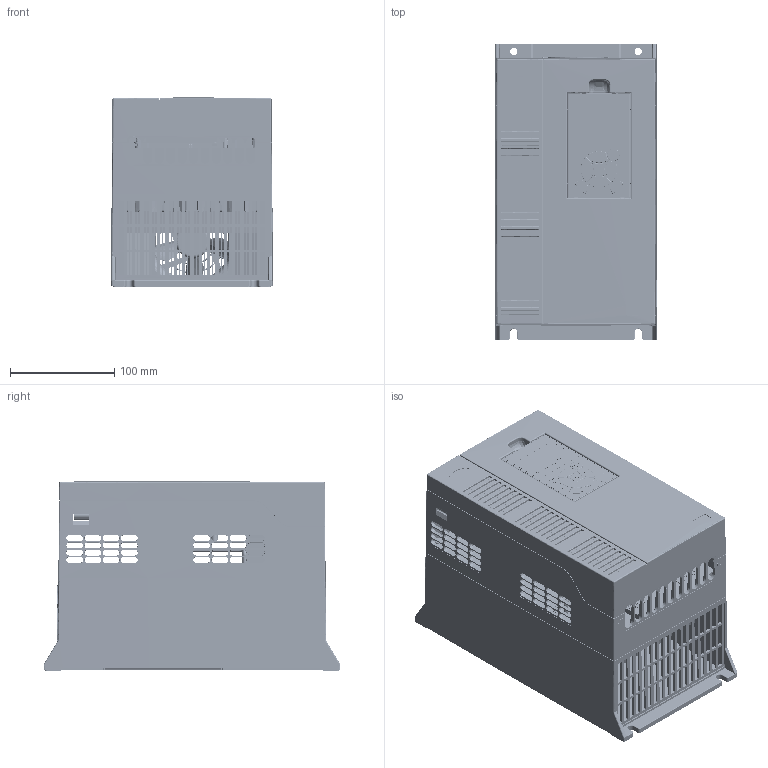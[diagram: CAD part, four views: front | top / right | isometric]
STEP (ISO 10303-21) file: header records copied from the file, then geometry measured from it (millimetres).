
FILE_DESCRIPTION((''),'2;1');
FILE_NAME('303_ASM','2025-09-25T13:38:40',('L90915'),(''),'CREO PARAMETRIC BY PTC INC, 2018190','CREO PARAMETRIC BY PTC INC, 2018190','');
FILE_SCHEMA(('CONFIG_CONTROL_DESIGN'));
Length unit declared in the file: millimetre
Products named in the file (30): 303MP01; 303MP02; 303MP03; 302PC01; 302PM01; 302MP07; 303MH01; 302MP01; 302MP02; 302PK01; 302ME01; 302MA01_ASM; 302PU01; 302PI01; 8025; MK; M3X17; M4R8-9R5ST; M2R9-9R5ST; M4-16; M4-10; M3-8; M3-6; ASM0001_ASM; 303WP01; 303WP02; 303WP03; 303MS01; 303MH02; 303_ASM
Assembly tree (44 placements, depth 3):
  303_ASM
    303MP01
    303MP02
    303MP03
    302PC01
    302PM01
    302MP07
    303MH01
    302MA01_ASM
      302MP01
      302MP02
      302PK01
      302ME01
    302PU01
    302PI01
    8025
    MK
    ASM0001_ASM
      M3X17  x2
      M4R8-9R5ST  x4
      M2R9-9R5ST  x8
      M4-16  x2
      M4-10  x2
      M3-8  x2
      M3-6  x2
    303WP01
    303WP02
    303WP03
    303MS01
    303MH02
Bounding box: 156 x 285 x 181.7 mm (x, y, z)
Volume: 1980000.7 mm3; surface area: 1564491 mm2
Topology: 42 solids, 42 shells, 8678 faces, 23556 edges, 15260 vertices
Faces by surface type: plane 5472, cylinder 2032, cone 392, bspline 377, torus 271, sphere 82, extrusion 52
Entity records: 280505 total; most frequent: CARTESIAN_POINT 75501, ORIENTED_EDGE 44764, DIRECTION 38998, EDGE_CURVE 22382, VECTOR 14644, LINE 14592, VERTEX_POINT 14557, AXIS2_PLACEMENT_3D 12177
